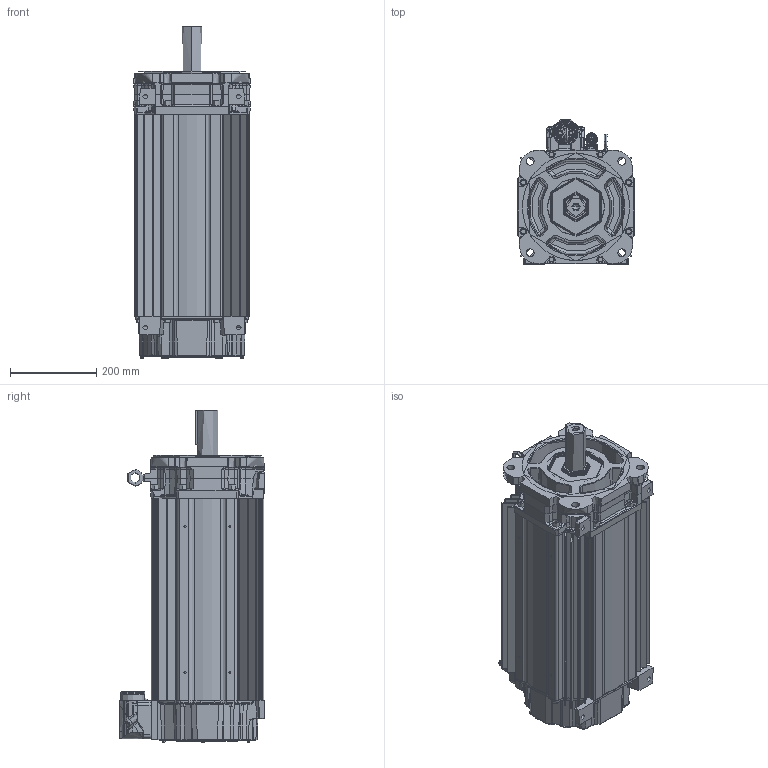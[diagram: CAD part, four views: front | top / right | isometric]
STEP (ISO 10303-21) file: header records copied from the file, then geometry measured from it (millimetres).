
FILE_DESCRIPTION((''),'2;1');
FILE_NAME('10001442216_ASM','2020-01-16T12:20:48',('VThimma'),('Rockwell Automation'),'CREO PARAMETRIC BY PTC INC, 2017380','CREO PARAMETRIC BY PTC INC, 2017380','');
FILE_SCHEMA(('CONFIG_CONTROL_DESIGN','SHAPE_APPEARANCE_LAYERS_GROUPS'));
Products named in the file (28): 10001441960; 10001404634_AF0; 10001404629_AF6; 10001404635_ASM; 10001585735; 10001442014_ASM; 10001439812; 10001440033_ASM; 10001405269_AF28; 10001405370_ASM; 10001586887; 0002-5004; 10001609981; 10001737030; 10000014325-2; 10000014331; 10000014332-460; 10000014330-460_ASM; 10000172464; 10000046189; 10000046190; 10000046191; 10000046193_ASM; 10001586879; 10001408124; 221404-Q12; 0011-2084; 10001442216_ASM
Assembly tree (52 placements, depth 4):
  10001442216_ASM
    10001442014_ASM
      10001441960
      10001404635_ASM
        10001404634_AF0
        10001404629_AF6
      10001585735  x8
    10001440033_ASM
      10001439812
    10001405370_ASM
      10001405269_AF28
    10001586887  x7
    0002-5004  x2
    10001609981
    10001737030
    10000014330-460_ASM
      10000014325-2
      10000014331
      10000014332-460
    10000172464  x4
    10000046193_ASM
      10000046189
      10000046190
      10000046191
    10001586879  x4
    10001408124
    221404-Q12  x6
    0011-2084
Bounding box: 269.49 x 335.29 x 768.83 mm (x, y, z)
Topology: 0 solids, 71 shells, 6713 faces, 17851 edges, 11283 vertices
Faces by surface type: cylinder 2480, plane 1693, bspline 1104, torus 778, cone 531, sphere 109, extrusion 17, revolution 1
Entity records: 337462 total; most frequent: CARTESIAN_POINT 111999, ORIENTED_EDGE 30691, DIRECTION 27536, PRESENTATION_STYLE_ASSIGNMENT 21129, STYLED_ITEM 21129, CURVE_STYLE 15399, EDGE_CURVE 15382, AXIS2_PLACEMENT_3D 11111
